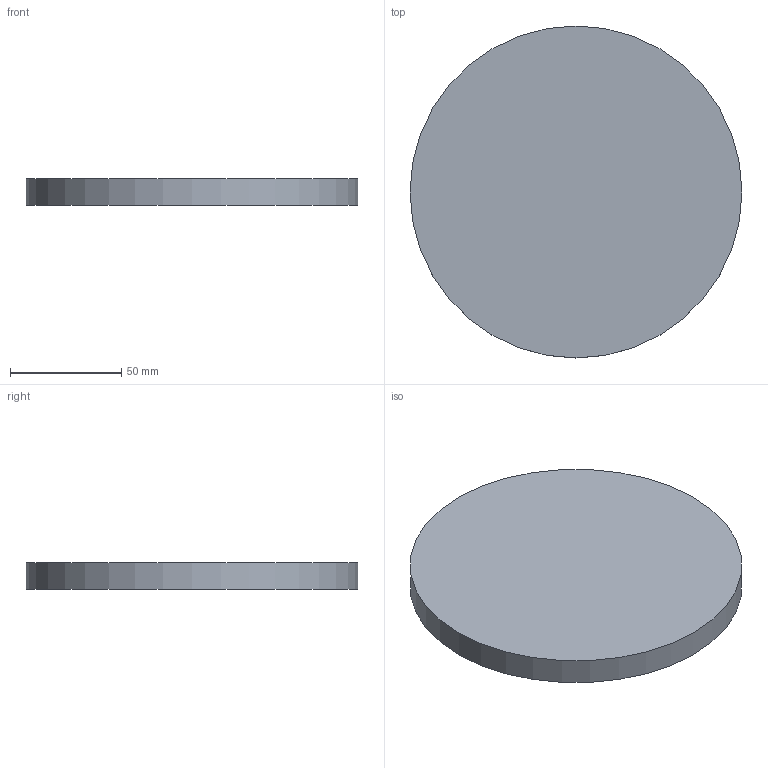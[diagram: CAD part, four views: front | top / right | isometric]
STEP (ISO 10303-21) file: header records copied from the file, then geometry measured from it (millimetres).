
FILE_DESCRIPTION(('Open CASCADE Model'),'2;1');
FILE_NAME('Open CASCADE Shape Model','2026-10-10T15:34:57',('Author'),( 'Open CASCADE'),'Open CASCADE STEP processor 7.9','Open CASCADE 7.9' ,'Unknown');
FILE_SCHEMA(('AUTOMOTIVE_DESIGN { 1 0 10303 214 1 1 1 1 }'));
Length unit declared in the file: millimetre
Products named in the file (1): Open CASCADE STEP translator 7.9 4
Bounding box: 149 x 149 x 12 mm (x, y, z)
Volume: 209239.5 mm3; surface area: 40490.4 mm2
Topology: 1 solids, 1 shells, 3 faces, 3 edges, 2 vertices
Faces by surface type: plane 2, cylinder 1
Full cylindrical faces by diameter (mm): 149 x1
Entity records: 108 total; most frequent: DIRECTION 19, CARTESIAN_POINT 15, AXIS2_PLACEMENT_3D 6, ORIENTED_EDGE 6, PCURVE 6, DEFINITIONAL_REPRESENTATION 6, LINE 5, VECTOR 5
